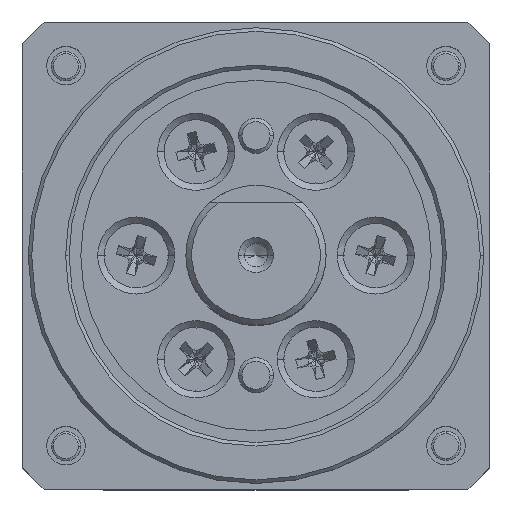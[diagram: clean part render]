
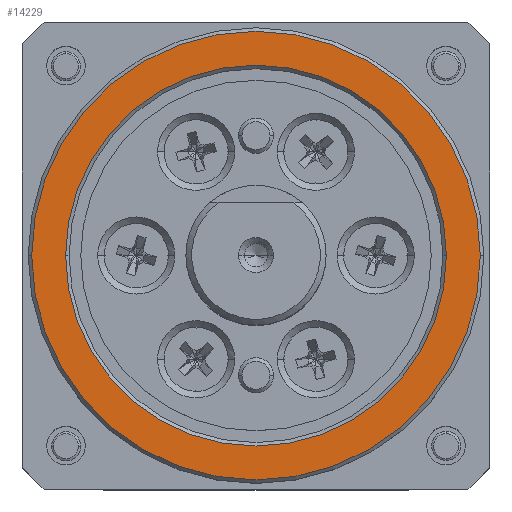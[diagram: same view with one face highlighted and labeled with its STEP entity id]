
A CAD part, top view. The second image highlights one B-rep face of the part: STEP entity #14229.
In plain terms, the highlighted planar face has unit normal (0, 0, 1).
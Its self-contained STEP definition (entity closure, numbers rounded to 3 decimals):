
#704 = DIRECTION ( 'NONE',  ( 0., 0., -1. ) ) ;
#998 = AXIS2_PLACEMENT_3D ( 'NONE', #29565, #13831, #32207 ) ;
#1651 = DIRECTION ( 'NONE',  ( 1., 0., 0. ) ) ;
#1734 = AXIS2_PLACEMENT_3D ( 'NONE', #33108, #17381, #1651 ) ;
#1965 = EDGE_CURVE ( 'NONE', #26263, #15869, #11236, .T. ) ;
#3272 = AXIS2_PLACEMENT_3D ( 'NONE', #11352, #29711, #13976 ) ;
#4048 = EDGE_LOOP ( 'NONE', ( #30292, #9340 ) ) ;
#4148 = EDGE_CURVE ( 'NONE', #11125, #33575, #22838, .T. ) ;
#4823 = CARTESIAN_POINT ( 'NONE',  ( -16.3, 0., 29.5 ) ) ;
#6838 = PLANE ( 'NONE',  #1734 ) ;
#7440 = AXIS2_PLACEMENT_3D ( 'NONE', #10938, #29306, #13560 ) ;
#7468 = FACE_BOUND ( 'NONE', #15151, .T. ) ;
#9214 = CARTESIAN_POINT ( 'NONE',  ( 16.3, 0., 29.5 ) ) ;
#9340 = ORIENTED_EDGE ( 'NONE', *, *, #13124, .T. ) ;
#10938 = CARTESIAN_POINT ( 'NONE',  ( 0., 0., 29.5 ) ) ;
#11125 = VERTEX_POINT ( 'NONE', #29919 ) ;
#11236 = CIRCLE ( 'NONE', #998, 16.3 ) ;
#11352 = CARTESIAN_POINT ( 'NONE',  ( 0., 0., 29.5 ) ) ;
#11655 = CIRCLE ( 'NONE', #7440, 19.2 ) ;
#13124 = EDGE_CURVE ( 'NONE', #33575, #11125, #11655, .T. ) ;
#13560 = DIRECTION ( 'NONE',  ( 1., 0., 0. ) ) ;
#13831 = DIRECTION ( 'NONE',  ( 0., 0., -1. ) ) ;
#13976 = DIRECTION ( 'NONE',  ( 1., 0., 0. ) ) ;
#14229 = ADVANCED_FACE ( 'NONE', ( #28400, #7468 ), #6838, .T. ) ;
#15103 = CARTESIAN_POINT ( 'NONE',  ( 19.2, 0., 29.5 ) ) ;
#15151 = EDGE_LOOP ( 'NONE', ( #32369, #32139 ) ) ;
#15869 = VERTEX_POINT ( 'NONE', #9214 ) ;
#16447 = CARTESIAN_POINT ( 'NONE',  ( 0., 0., 29.5 ) ) ;
#17381 = DIRECTION ( 'NONE',  ( 0., 0., 1. ) ) ;
#17384 = AXIS2_PLACEMENT_3D ( 'NONE', #16447, #704, #19093 ) ;
#19093 = DIRECTION ( 'NONE',  ( 1., 0., 0. ) ) ;
#20909 = CIRCLE ( 'NONE', #17384, 16.3 ) ;
#22838 = CIRCLE ( 'NONE', #3272, 19.2 ) ;
#26263 = VERTEX_POINT ( 'NONE', #4823 ) ;
#28400 = FACE_OUTER_BOUND ( 'NONE', #4048, .T. ) ;
#29144 = EDGE_CURVE ( 'NONE', #15869, #26263, #20909, .T. ) ;
#29306 = DIRECTION ( 'NONE',  ( 0., 0., 1. ) ) ;
#29565 = CARTESIAN_POINT ( 'NONE',  ( 0., 0., 29.5 ) ) ;
#29711 = DIRECTION ( 'NONE',  ( 0., 0., 1. ) ) ;
#29919 = CARTESIAN_POINT ( 'NONE',  ( -19.2, 0., 29.5 ) ) ;
#30292 = ORIENTED_EDGE ( 'NONE', *, *, #4148, .T. ) ;
#32139 = ORIENTED_EDGE ( 'NONE', *, *, #1965, .T. ) ;
#32207 = DIRECTION ( 'NONE',  ( 1., 0., 0. ) ) ;
#32369 = ORIENTED_EDGE ( 'NONE', *, *, #29144, .T. ) ;
#33108 = CARTESIAN_POINT ( 'NONE',  ( 0., 0., 29.5 ) ) ;
#33575 = VERTEX_POINT ( 'NONE', #15103 ) ;
